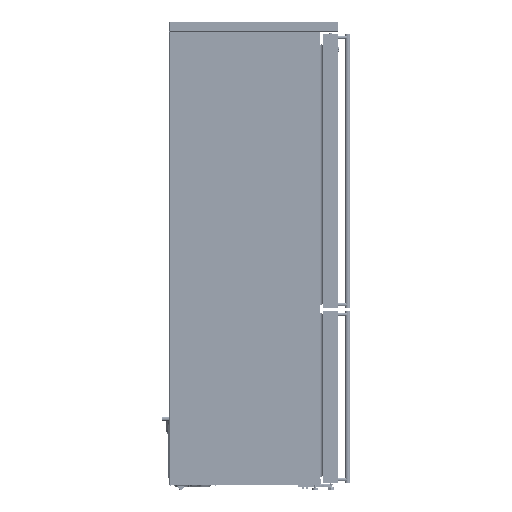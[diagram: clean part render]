
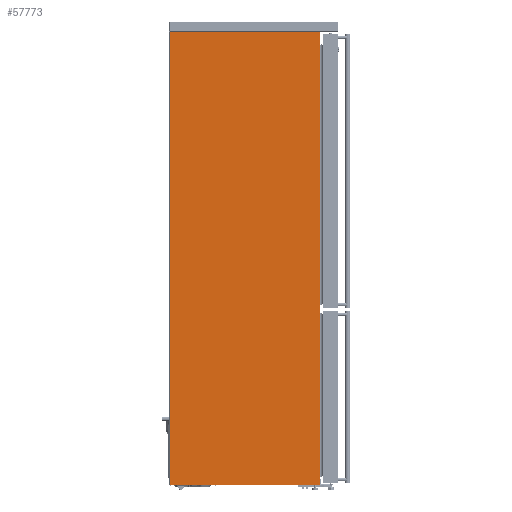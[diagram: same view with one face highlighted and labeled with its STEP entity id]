
A CAD part, left-side view. The second image highlights one B-rep face of the part: STEP entity #57773.
In plain terms, the highlighted planar face has unit normal (-1, 0, 0).
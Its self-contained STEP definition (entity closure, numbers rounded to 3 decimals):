
#14762=PLANE('',#173147);
#22018=FACE_OUTER_BOUND('',#74376,.T.);
#35122=LINE('',#300074,#48717);
#35125=LINE('',#300081,#48720);
#35131=LINE('',#300100,#48726);
#35139=LINE('',#300115,#48734);
#35144=LINE('',#300125,#48739);
#35147=LINE('',#300139,#48742);
#35154=LINE('',#300153,#48749);
#35158=LINE('',#300168,#48753);
#35163=LINE('',#300179,#48758);
#35169=LINE('',#300187,#48764);
#35172=LINE('',#300192,#48767);
#35173=LINE('',#300193,#48768);
#48717=VECTOR('',#213059,1.);
#48720=VECTOR('',#213066,1.);
#48726=VECTOR('',#213082,1.);
#48734=VECTOR('',#213100,1.);
#48739=VECTOR('',#213107,1.);
#48742=VECTOR('',#213120,1.);
#48749=VECTOR('',#213133,1.);
#48753=VECTOR('',#213147,1.);
#48758=VECTOR('',#213158,1.);
#48764=VECTOR('',#213166,1.);
#48767=VECTOR('',#213173,1.);
#48768=VECTOR('',#213174,1.);
#57773=ADVANCED_FACE('',(#22018),#14762,.F.);
#74376=EDGE_LOOP('',(#114267,#114268,#114269,#114270,#114271,#114272,#114273,
#114274,#114275,#114276,#114277,#114278));
#114267=ORIENTED_EDGE('',*,*,#152414,.F.);
#114268=ORIENTED_EDGE('',*,*,#152373,.T.);
#114269=ORIENTED_EDGE('',*,*,#152364,.F.);
#114270=ORIENTED_EDGE('',*,*,#152378,.F.);
#114271=ORIENTED_EDGE('',*,*,#152415,.T.);
#114272=ORIENTED_EDGE('',*,*,#152384,.F.);
#114273=ORIENTED_EDGE('',*,*,#152392,.F.);
#114274=ORIENTED_EDGE('',*,*,#152405,.T.);
#114275=ORIENTED_EDGE('',*,*,#152399,.F.);
#114276=ORIENTED_EDGE('',*,*,#152411,.F.);
#114277=ORIENTED_EDGE('',*,*,#152355,.T.);
#114278=ORIENTED_EDGE('',*,*,#152351,.F.);
#131464=VERTEX_POINT('',#300072);
#131466=VERTEX_POINT('',#300075);
#131468=VERTEX_POINT('',#300082);
#131474=VERTEX_POINT('',#300098);
#131476=VERTEX_POINT('',#300101);
#131478=VERTEX_POINT('',#300116);
#131481=VERTEX_POINT('',#300124);
#131486=VERTEX_POINT('',#300137);
#131488=VERTEX_POINT('',#300140);
#131491=VERTEX_POINT('',#300152);
#131496=VERTEX_POINT('',#300166);
#131498=VERTEX_POINT('',#300169);
#152351=EDGE_CURVE('',#131464,#131466,#35122,.T.);
#152355=EDGE_CURVE('',#131468,#131466,#35125,.T.);
#152364=EDGE_CURVE('',#131474,#131476,#35131,.T.);
#152373=EDGE_CURVE('',#131478,#131476,#35139,.T.);
#152378=EDGE_CURVE('',#131481,#131474,#35144,.T.);
#152384=EDGE_CURVE('',#131486,#131488,#35147,.T.);
#152392=EDGE_CURVE('',#131491,#131486,#35154,.T.);
#152399=EDGE_CURVE('',#131496,#131498,#35158,.T.);
#152405=EDGE_CURVE('',#131491,#131498,#35163,.T.);
#152411=EDGE_CURVE('',#131468,#131496,#35169,.T.);
#152414=EDGE_CURVE('',#131478,#131464,#35172,.T.);
#152415=EDGE_CURVE('',#131481,#131488,#35173,.T.);
#173147=AXIS2_PLACEMENT_3D('',#300194,#213175,#213176);
#213059=DIRECTION('',(0.,1.,0.));
#213066=DIRECTION('',(0.,0.,-1.));
#213082=DIRECTION('',(0.,0.,-1.));
#213100=DIRECTION('',(0.,-1.,0.));
#213107=DIRECTION('',(0.,-1.,0.));
#213120=DIRECTION('',(0.,-1.,0.));
#213133=DIRECTION('',(0.,0.,1.));
#213147=DIRECTION('',(0.,0.,1.));
#213158=DIRECTION('',(0.,1.,0.));
#213166=DIRECTION('',(0.,1.,0.));
#213173=DIRECTION('',(0.,0.,-1.));
#213174=DIRECTION('',(0.,0.,1.));
#213175=DIRECTION('',(1.,0.,0.));
#213176=DIRECTION('',(0.,0.,-1.));
#300072=CARTESIAN_POINT('',(-351.8,13.334,53.534));
#300074=CARTESIAN_POINT('',(-351.8,13.334,53.534));
#300075=CARTESIAN_POINT('',(-351.8,639.534,53.534));
#300081=CARTESIAN_POINT('',(-351.8,639.534,53.534));
#300082=CARTESIAN_POINT('',(-351.8,639.534,53.834));
#300098=CARTESIAN_POINT('',(-351.8,13.034,1945.034));
#300100=CARTESIAN_POINT('',(-351.8,13.034,1945.034));
#300101=CARTESIAN_POINT('',(-351.8,13.034,53.834));
#300115=CARTESIAN_POINT('',(-351.8,639.834,53.834));
#300116=CARTESIAN_POINT('',(-351.8,13.334,53.834));
#300124=CARTESIAN_POINT('',(-351.8,13.334,1945.034));
#300125=CARTESIAN_POINT('',(-351.8,641.434,1945.034));
#300137=CARTESIAN_POINT('',(-351.8,639.534,1945.334));
#300139=CARTESIAN_POINT('',(-351.8,639.534,1945.334));
#300140=CARTESIAN_POINT('',(-351.8,13.334,1945.334));
#300152=CARTESIAN_POINT('',(-351.8,639.534,1945.034));
#300153=CARTESIAN_POINT('',(-351.8,639.534,51.934));
#300166=CARTESIAN_POINT('',(-351.8,639.834,53.834));
#300168=CARTESIAN_POINT('',(-351.8,639.834,53.834));
#300169=CARTESIAN_POINT('',(-351.8,639.834,1945.034));
#300179=CARTESIAN_POINT('',(-351.8,639.834,1945.034));
#300187=CARTESIAN_POINT('',(-351.8,639.834,53.834));
#300192=CARTESIAN_POINT('',(-351.8,13.334,1946.934));
#300193=CARTESIAN_POINT('',(-351.8,13.334,1945.334));
#300194=CARTESIAN_POINT('',(-351.8,639.834,53.534));
